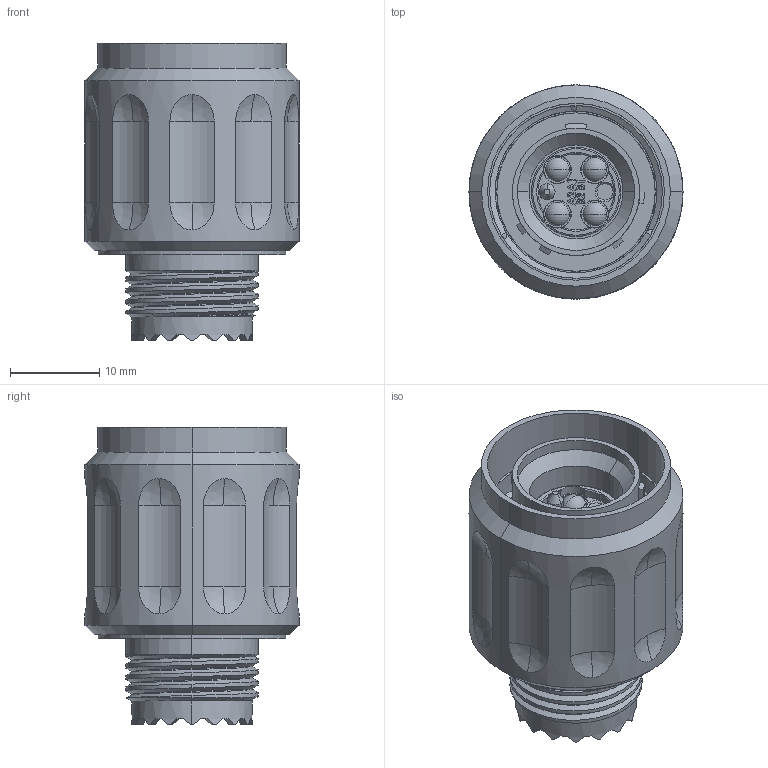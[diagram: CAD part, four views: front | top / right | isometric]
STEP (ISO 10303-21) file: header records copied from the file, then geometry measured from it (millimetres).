
FILE_DESCRIPTION (( 'STEP AP214' ), '1' );
FILE_NAME ('Q38EB-PGX-11XX-X.STEP', '2025-08-22T18:56:44', ( '' ), ( '' ), 'SwSTEP 2.0', 'SolidWorks 2024', '' );
FILE_SCHEMA (( 'AUTOMOTIVE_DESIGN' ));
Length unit declared in the file: millimetre
Products named in the file (1): Q38EB-PGX-11XX-X
Bounding box: 24 x 24 x 33.35 mm (x, y, z)
Volume: 7906.3 mm3; surface area: 5714.1 mm2
Topology: 1 solids, 1 shells, 449 faces, 1168 edges, 754 vertices
Faces by surface type: plane 189, cylinder 132, sphere 48, bspline 38, cone 35, torus 7
Entity records: 17070 total; most frequent: CARTESIAN_POINT 6513, ORIENTED_EDGE 2324, DIRECTION 2094, EDGE_CURVE 1162, AXIS2_PLACEMENT_3D 793, VERTEX_POINT 754, VECTOR 508, LINE 508
